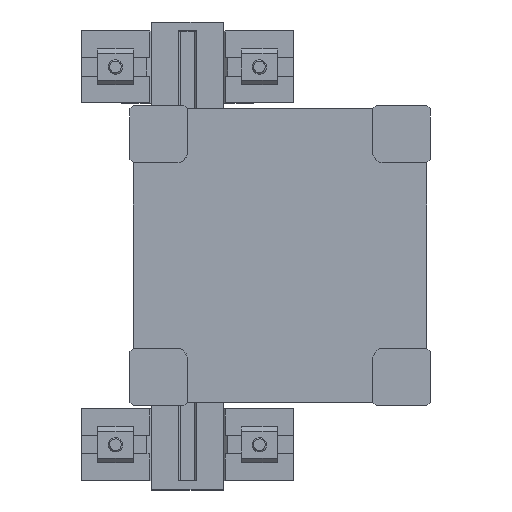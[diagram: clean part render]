
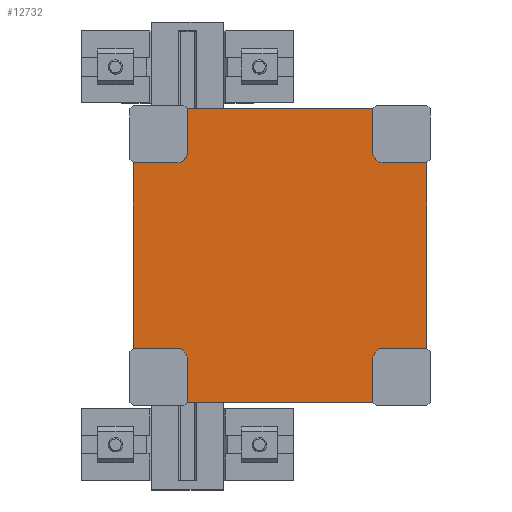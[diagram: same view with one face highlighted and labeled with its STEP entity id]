
A CAD part, top view. The second image highlights one B-rep face of the part: STEP entity #12732.
In plain terms, the highlighted planar face has unit normal (0, 0, 1).
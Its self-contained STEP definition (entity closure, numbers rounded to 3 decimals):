
#372=CIRCLE('',#13421,6.);
#373=CIRCLE('',#13422,6.);
#374=CIRCLE('',#13423,6.);
#375=CIRCLE('',#13424,6.);
#1286=FACE_OUTER_BOUND('',#1960,.T.);
#1960=EDGE_LOOP('',(#9013,#9014,#9015,#9016,#9017,#9018,#9019,#9020,#9021,
#9022,#9023,#9024,#9025,#9026,#9027,#9028,#9029,#9030,#9031,#9032,#9033,
#9034,#9035,#9036));
#2728=LINE('',#17710,#4220);
#2757=LINE('',#17773,#4249);
#2761=LINE('',#17780,#4253);
#2762=LINE('',#17784,#4254);
#2791=LINE('',#17847,#4283);
#2795=LINE('',#17854,#4287);
#2797=LINE('',#17862,#4289);
#2826=LINE('',#17925,#4318);
#2830=LINE('',#17932,#4322);
#2831=LINE('',#17936,#4323);
#2860=LINE('',#17999,#4352);
#2864=LINE('',#18006,#4356);
#2889=LINE('',#18082,#4381);
#2890=LINE('',#18083,#4382);
#2891=LINE('',#18086,#4383);
#2892=LINE('',#18087,#4384);
#2893=LINE('',#18090,#4385);
#2894=LINE('',#18091,#4386);
#2895=LINE('',#18094,#4387);
#2896=LINE('',#18095,#4388);
#4220=VECTOR('',#14365,23.5);
#4249=VECTOR('',#14418,23.5);
#4253=VECTOR('',#14424,0.5);
#4254=VECTOR('',#14427,23.5);
#4283=VECTOR('',#14480,23.5);
#4287=VECTOR('',#14486,0.5);
#4289=VECTOR('',#14494,23.5);
#4318=VECTOR('',#14547,23.5);
#4322=VECTOR('',#14553,0.5);
#4323=VECTOR('',#14556,23.5);
#4352=VECTOR('',#14609,23.5);
#4356=VECTOR('',#14615,0.5);
#4381=VECTOR('',#14690,0.5);
#4382=VECTOR('',#14691,103.);
#4383=VECTOR('',#14694,0.5);
#4384=VECTOR('',#14695,103.);
#4385=VECTOR('',#14698,0.5);
#4386=VECTOR('',#14699,103.);
#4387=VECTOR('',#14702,0.5);
#4388=VECTOR('',#14703,103.);
#5704=VERTEX_POINT('',#17708);
#5705=VERTEX_POINT('',#17709);
#5726=VERTEX_POINT('',#17768);
#5727=VERTEX_POINT('',#17772);
#5729=VERTEX_POINT('',#17778);
#5730=VERTEX_POINT('',#17782);
#5731=VERTEX_POINT('',#17783);
#5750=VERTEX_POINT('',#17838);
#5753=VERTEX_POINT('',#17846);
#5755=VERTEX_POINT('',#17852);
#5757=VERTEX_POINT('',#17860);
#5758=VERTEX_POINT('',#17861);
#5779=VERTEX_POINT('',#17920);
#5780=VERTEX_POINT('',#17924);
#5782=VERTEX_POINT('',#17930);
#5783=VERTEX_POINT('',#17934);
#5784=VERTEX_POINT('',#17935);
#5805=VERTEX_POINT('',#17994);
#5806=VERTEX_POINT('',#17998);
#5808=VERTEX_POINT('',#18004);
#5834=VERTEX_POINT('',#18080);
#5835=VERTEX_POINT('',#18084);
#5836=VERTEX_POINT('',#18088);
#5837=VERTEX_POINT('',#18092);
#6913=EDGE_CURVE('',#5704,#5705,#2728,.T.);
#6944=EDGE_CURVE('',#5727,#5726,#2757,.T.);
#6948=EDGE_CURVE('',#5726,#5729,#2761,.T.);
#6949=EDGE_CURVE('',#5730,#5731,#2762,.T.);
#6980=EDGE_CURVE('',#5750,#5753,#2791,.T.);
#6984=EDGE_CURVE('',#5731,#5755,#2795,.T.);
#6987=EDGE_CURVE('',#5757,#5758,#2797,.T.);
#7018=EDGE_CURVE('',#5780,#5779,#2826,.T.);
#7022=EDGE_CURVE('',#5779,#5782,#2830,.T.);
#7023=EDGE_CURVE('',#5783,#5784,#2831,.T.);
#7054=EDGE_CURVE('',#5806,#5805,#2860,.T.);
#7058=EDGE_CURVE('',#5805,#5808,#2864,.T.);
#7092=EDGE_CURVE('',#5808,#5834,#372,.T.);
#7093=EDGE_CURVE('',#5834,#5783,#2889,.T.);
#7094=EDGE_CURVE('',#5784,#5780,#2890,.T.);
#7095=EDGE_CURVE('',#5782,#5835,#373,.T.);
#7096=EDGE_CURVE('',#5835,#5757,#2891,.T.);
#7097=EDGE_CURVE('',#5758,#5727,#2892,.T.);
#7098=EDGE_CURVE('',#5729,#5836,#374,.T.);
#7099=EDGE_CURVE('',#5836,#5704,#2893,.T.);
#7100=EDGE_CURVE('',#5705,#5730,#2894,.T.);
#7101=EDGE_CURVE('',#5755,#5837,#375,.T.);
#7102=EDGE_CURVE('',#5837,#5750,#2895,.T.);
#7103=EDGE_CURVE('',#5753,#5806,#2896,.T.);
#9013=ORIENTED_EDGE('',*,*,#7054,.T.);
#9014=ORIENTED_EDGE('',*,*,#7058,.T.);
#9015=ORIENTED_EDGE('',*,*,#7092,.T.);
#9016=ORIENTED_EDGE('',*,*,#7093,.T.);
#9017=ORIENTED_EDGE('',*,*,#7023,.T.);
#9018=ORIENTED_EDGE('',*,*,#7094,.T.);
#9019=ORIENTED_EDGE('',*,*,#7018,.T.);
#9020=ORIENTED_EDGE('',*,*,#7022,.T.);
#9021=ORIENTED_EDGE('',*,*,#7095,.T.);
#9022=ORIENTED_EDGE('',*,*,#7096,.T.);
#9023=ORIENTED_EDGE('',*,*,#6987,.T.);
#9024=ORIENTED_EDGE('',*,*,#7097,.T.);
#9025=ORIENTED_EDGE('',*,*,#6944,.T.);
#9026=ORIENTED_EDGE('',*,*,#6948,.T.);
#9027=ORIENTED_EDGE('',*,*,#7098,.T.);
#9028=ORIENTED_EDGE('',*,*,#7099,.T.);
#9029=ORIENTED_EDGE('',*,*,#6913,.T.);
#9030=ORIENTED_EDGE('',*,*,#7100,.T.);
#9031=ORIENTED_EDGE('',*,*,#6949,.T.);
#9032=ORIENTED_EDGE('',*,*,#6984,.T.);
#9033=ORIENTED_EDGE('',*,*,#7101,.T.);
#9034=ORIENTED_EDGE('',*,*,#7102,.T.);
#9035=ORIENTED_EDGE('',*,*,#6980,.T.);
#9036=ORIENTED_EDGE('',*,*,#7103,.T.);
#12198=PLANE('',#13420);
#12732=ADVANCED_FACE('',(#1286),#12198,.T.);
#13420=AXIS2_PLACEMENT_3D('',#18079,#14686,#14687);
#13421=AXIS2_PLACEMENT_3D('',#18081,#14688,#14689);
#13422=AXIS2_PLACEMENT_3D('',#18085,#14692,#14693);
#13423=AXIS2_PLACEMENT_3D('',#18089,#14696,#14697);
#13424=AXIS2_PLACEMENT_3D('',#18093,#14700,#14701);
#14365=DIRECTION('',(1.,0.,0.));
#14418=DIRECTION('',(0.,1.,0.));
#14424=DIRECTION('',(0.,1.,0.));
#14427=DIRECTION('',(-1.,0.,0.));
#14480=DIRECTION('',(0.,1.,0.));
#14486=DIRECTION('',(-1.,0.,0.));
#14494=DIRECTION('',(0.,-1.,0.));
#14547=DIRECTION('',(1.,0.,0.));
#14553=DIRECTION('',(1.,0.,0.));
#14556=DIRECTION('',(-1.,0.,0.));
#14609=DIRECTION('',(0.,-1.,0.));
#14615=DIRECTION('',(0.,-1.,0.));
#14686=DIRECTION('center_axis',(0.,0.,
1.));
#14687=DIRECTION('ref_axis',(0.,-1.,0.));
#14688=DIRECTION('center_axis',(0.,0.,
-1.));
#14689=DIRECTION('ref_axis',(0.,1.,0.));
#14690=DIRECTION('',(-1.,0.,0.));
#14691=DIRECTION('',(0.,-1.,0.));
#14692=DIRECTION('center_axis',(0.,0.,
-1.));
#14693=DIRECTION('ref_axis',(1.,0.,0.));
#14694=DIRECTION('',(0.,-1.,0.));
#14695=DIRECTION('',(1.,0.,0.));
#14696=DIRECTION('center_axis',(0.,0.,
-1.));
#14697=DIRECTION('ref_axis',(0.,-1.,0.));
#14698=DIRECTION('',(1.,0.,0.));
#14699=DIRECTION('',(0.,1.,0.));
#14700=DIRECTION('center_axis',(0.,0.,
-1.));
#14701=DIRECTION('ref_axis',(-1.,0.,0.));
#14702=DIRECTION('',(0.,1.,0.));
#14703=DIRECTION('',(-1.,0.,0.));
#17708=CARTESIAN_POINT('',(58.,-51.5,92.975));
#17709=CARTESIAN_POINT('',(81.5,-51.5,92.975));
#17710=CARTESIAN_POINT('',(28.75,-51.5,92.975));
#17768=CARTESIAN_POINT('',(51.5,-58.,92.975));
#17772=CARTESIAN_POINT('',(51.5,-81.5,92.975));
#17773=CARTESIAN_POINT('',(51.5,-40.75,92.975));
#17778=CARTESIAN_POINT('',(51.5,-57.5,92.975));
#17780=CARTESIAN_POINT('',(51.5,-40.75,92.975));
#17782=CARTESIAN_POINT('',(81.5,51.5,92.975));
#17783=CARTESIAN_POINT('',(58.,51.5,92.975));
#17784=CARTESIAN_POINT('',(40.75,51.5,92.975));
#17838=CARTESIAN_POINT('',(51.5,58.,92.975));
#17846=CARTESIAN_POINT('',(51.5,81.5,92.975));
#17847=CARTESIAN_POINT('',(51.5,28.75,92.975));
#17852=CARTESIAN_POINT('',(57.5,51.5,92.975));
#17854=CARTESIAN_POINT('',(40.75,51.5,92.975));
#17860=CARTESIAN_POINT('',(-51.5,-58.,92.975));
#17861=CARTESIAN_POINT('',(-51.5,-81.5,92.975));
#17862=CARTESIAN_POINT('',(-51.5,-28.75,92.975));
#17920=CARTESIAN_POINT('',(-58.,-51.5,92.975));
#17924=CARTESIAN_POINT('',(-81.5,-51.5,92.975));
#17925=CARTESIAN_POINT('',(-40.75,-51.5,92.975));
#17930=CARTESIAN_POINT('',(-57.5,-51.5,92.975));
#17932=CARTESIAN_POINT('',(-40.75,-51.5,92.975));
#17934=CARTESIAN_POINT('',(-58.,51.5,92.975));
#17935=CARTESIAN_POINT('',(-81.5,51.5,92.975));
#17936=CARTESIAN_POINT('',(-28.75,51.5,92.975));
#17994=CARTESIAN_POINT('',(-51.5,58.,92.975));
#17998=CARTESIAN_POINT('',(-51.5,81.5,92.975));
#17999=CARTESIAN_POINT('',(-51.5,40.75,92.975));
#18004=CARTESIAN_POINT('',(-51.5,57.5,92.975));
#18006=CARTESIAN_POINT('',(-51.5,40.75,92.975));
#18079=CARTESIAN_POINT('Origin',(0.,0.,
92.975));
#18080=CARTESIAN_POINT('',(-57.5,51.5,92.975));
#18081=CARTESIAN_POINT('Origin',(-57.5,57.5,92.975));
#18082=CARTESIAN_POINT('',(-28.75,51.5,92.975));
#18083=CARTESIAN_POINT('',(-81.5,-81.5,92.975));
#18084=CARTESIAN_POINT('',(-51.5,-57.5,92.975));
#18085=CARTESIAN_POINT('Origin',(-57.5,-57.5,92.975));
#18086=CARTESIAN_POINT('',(-51.5,-28.75,92.975));
#18087=CARTESIAN_POINT('',(81.5,-81.5,92.975));
#18088=CARTESIAN_POINT('',(57.5,-51.5,92.975));
#18089=CARTESIAN_POINT('Origin',(57.5,-57.5,92.975));
#18090=CARTESIAN_POINT('',(28.75,-51.5,92.975));
#18091=CARTESIAN_POINT('',(81.5,81.5,92.975));
#18092=CARTESIAN_POINT('',(51.5,57.5,92.975));
#18093=CARTESIAN_POINT('Origin',(57.5,57.5,92.975));
#18094=CARTESIAN_POINT('',(51.5,28.75,92.975));
#18095=CARTESIAN_POINT('',(-81.5,81.5,92.975));
